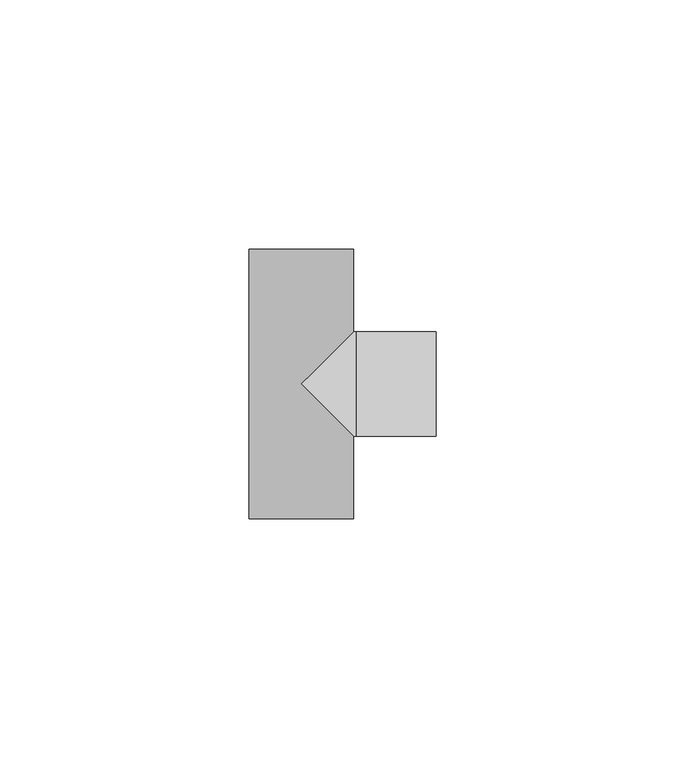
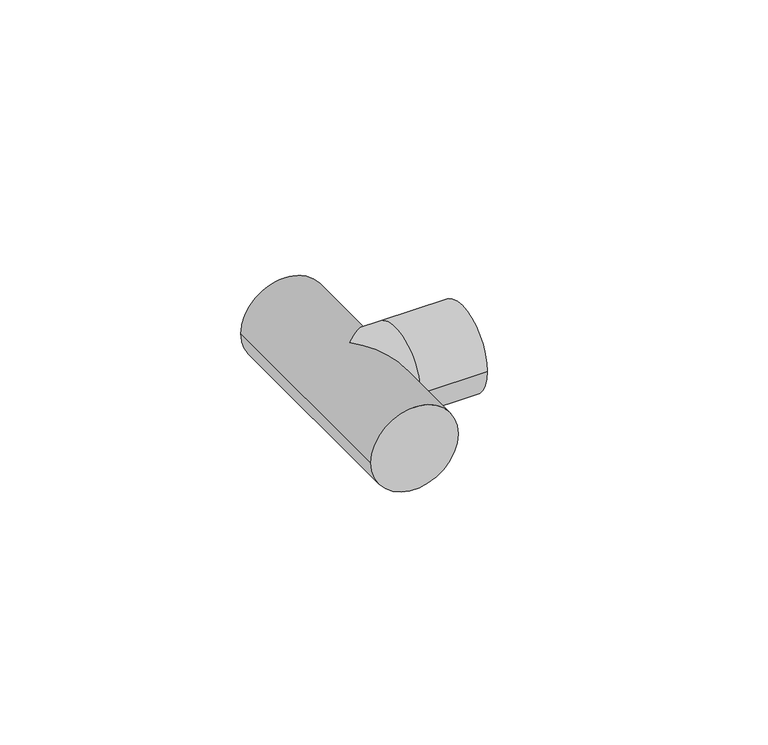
"""IFC4 building model written with IfcOpenShell, lengths in millimetres: pipe fitting geometry, 01051003 : Tes 90º."""

from ifc_helpers import new_model, si_unit, frame, origin, place, context, project, spatial, circle_curve, ellipse_curve, source, transform, mapped, element, save
from ifc_brep_helpers import plane_surface, cylinder_surface, advanced_brep


def pipe_fitting_22d2b237(model_context):
    return source(origin(), model_context, "Body", "AdvancedBrep", [
        advanced_brep(
        [(-10.45, 27.0, 0.0), (10.45, 27.0, 0.0), (-10.45, -27.0, 0.0), (10.45, -27.0, 0.0), (10.45, -10.45, 0.0), (0.0, 0.0, 10.45), (10.45, 10.45, 0.0), (0.0, 0.0, -10.45), (27.0, 10.45, 0.0), (27.0, -10.45, 0.0), (11.0, -10.45, 0.0), (11.0, 10.45, 0.0)],
        [
            (0, 1, circle_curve(frame((0.0, 27.0, 0.0), z_axis=(0.0, 1.0, 0.0), x_axis=(1.0, 0.0, 0.0)), 10.45)),
            (1, 0, circle_curve(frame((0.0, 27.0, 0.0), z_axis=(0.0, 1.0, 0.0), x_axis=(1.0, 0.0, 0.0)), 10.45)),
            (2, 3, circle_curve(frame((0.0, -27.0, 0.0), z_axis=(0.0, -1.0, 0.0), x_axis=(1.0, 0.0, 0.0)), 10.45)),
            (3, 2, circle_curve(frame((0.0, -27.0, 0.0), z_axis=(0.0, -1.0, 0.0), x_axis=(1.0, 0.0, 0.0)), 10.45)),
            (0, 2),
            (3, 4),
            (4, 5, ellipse_curve(frame((0.0, 0.0, 0.0), z_axis=(-0.7071067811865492, -0.7071067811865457, 0.0), x_axis=(-0.7071067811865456, 0.7071067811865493, 0.0)), 14.7785317, 10.45)),
            (5, 6, ellipse_curve(frame((0.0, 0.0, 0.0), z_axis=(-0.7071067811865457, 0.7071067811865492, 0.0), x_axis=(0.7071067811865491, 0.7071067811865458, 0.0)), 14.7785317, 10.45)),
            (6, 1),
            (6, 7, ellipse_curve(frame((0.0, 0.0, 0.0), z_axis=(-0.7071067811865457, 0.7071067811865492, 0.0), x_axis=(0.7071067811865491, 0.7071067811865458, 0.0)), 14.7785317, 10.45)),
            (7, 4, ellipse_curve(frame((0.0, 0.0, 0.0), z_axis=(-0.7071067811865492, -0.7071067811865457, 0.0), x_axis=(-0.7071067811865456, 0.7071067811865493, 0.0)), 14.7785317, 10.45)),
            (8, 9, circle_curve(frame((27.0, 0.0, 0.0), z_axis=(1.0, 0.0, 0.0), x_axis=(0.0, -1.0, 0.0)), 10.45)),
            (9, 8, circle_curve(frame((27.0, 0.0, 0.0), z_axis=(1.0, 0.0, 0.0), x_axis=(0.0, -1.0, 0.0)), 10.45)),
            (10, 11, circle_curve(frame((11.0, 0.0, 0.0), z_axis=(-1.0, 0.0, 0.0), x_axis=(0.0, -1.0, 0.0)), 10.45)),
            (11, 6),
            (4, 10),
            (11, 10, circle_curve(frame((11.0, 0.0, 0.0), z_axis=(-1.0, 0.0, 0.0), x_axis=(0.0, -1.0, 0.0)), 10.45)),
            (8, 11),
            (10, 9),
        ],
        [
            plane_surface(frame((0.0, 27.0, 0.0), z_axis=(0.0, 1.0, 0.0), x_axis=(0.0, 0.0, 1.0))),
            plane_surface(frame((0.0, -27.0, 0.0), z_axis=(0.0, -1.0, 0.0), x_axis=(0.0, 0.0, 1.0))),
            cylinder_surface(frame((0.0, 27.0, 0.0), z_axis=(0.0, 1.0, 0.0), x_axis=(1.0, 0.0, 0.0)), 10.45),
            plane_surface(frame((27.0, 0.0, 0.0), z_axis=(1.0, 0.0, 0.0), x_axis=(0.0, 0.0, 1.0))),
            cylinder_surface(frame((11.0, 0.0, 0.0), z_axis=(1.0, 0.0, 0.0), x_axis=(0.0, -1.0, 0.0)), 10.45),
            cylinder_surface(frame((27.0, 0.0, 0.0), z_axis=(1.0, 0.0, 0.0), x_axis=(0.0, -1.0, 0.0)), 10.45),
        ],
        [
            (0, [[1, 2]]),
            (1, [[3, 4]]),
            (2, [[-1, 5, -4, 6, 7, 8, 9]]),
            (2, [[-2, -9, 10, 11, -6, -3, -5]]),
            (3, [[12, 13]]),
            (4, [[14, 15, -8, -7, 16]]),
            (4, [[17, -16, -11, -10, -15]]),
            (5, [[-12, 18, -14, 19]]),
            (5, [[-13, -19, -17, -18]]),
        ],
    ),
    ])


if __name__ == "__main__":
    model = new_model("IFC4")
    model_context = context("Model", 3, world=origin())
    ifc_project = project(units=[si_unit("LENGTHUNIT", "METRE", prefix="MILLI")], contexts=[model_context])
    site = spatial("IfcSite", under=ifc_project)
    building = spatial("IfcBuilding", under=site)
    placement = place(None, origin())
    pipe_fitting_shape = pipe_fitting_22d2b237(model_context)
    element("IfcPipeFitting", 1, ObjectType="01051003 : Tes 90º", at=placement, inside=building, context=model_context, shape_type="MappedRepresentation", body=[
        mapped(pipe_fitting_shape, transform((0.0, 0.0, 0.0), x_axis=(1.0, 0.0, 0.0), y_axis=(0.0, 1.0, 0.0), z_axis=(0.0, 0.0, 1.0))),
    ])
    save(model, "model.ifc")
